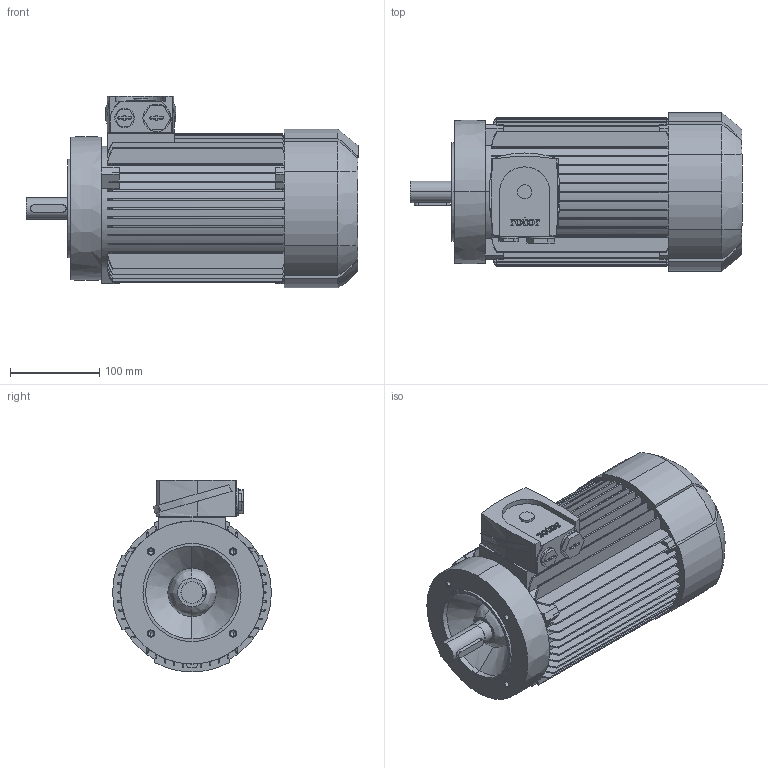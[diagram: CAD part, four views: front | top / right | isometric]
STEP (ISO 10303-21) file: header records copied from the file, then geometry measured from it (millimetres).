
FILE_DESCRIPTION (( 'STEP AP214' ), '1' );
FILE_NAME ('6RN90L04E34 IM3601 FT130.STEP', '2014-09-22T09:10:41', ( 'rbc_ict' ), ( 'REGAL' ), 'SwSTEP 2.0', 'SolidWorks 2012', '' );
FILE_SCHEMA (( 'AUTOMOTIVE_DESIGN' ));
Length unit declared in the file: millimetre
Products named in the file (1): 6RN90L04E34 IM3601 FT130
Bounding box: 372 x 178 x 215 mm (x, y, z)
Volume: 6239115.4 mm3; surface area: 493826.3 mm2
Topology: 1 solids, 1 shells, 629 faces, 1785 edges, 1177 vertices
Faces by surface type: plane 342, bspline 135, cylinder 129, cone 23
Entity records: 23888 total; most frequent: CARTESIAN_POINT 8191, ORIENTED_EDGE 3554, DIRECTION 2949, EDGE_CURVE 1777, VERTEX_POINT 1177, AXIS2_PLACEMENT_3D 993, LINE 963, VECTOR 963
